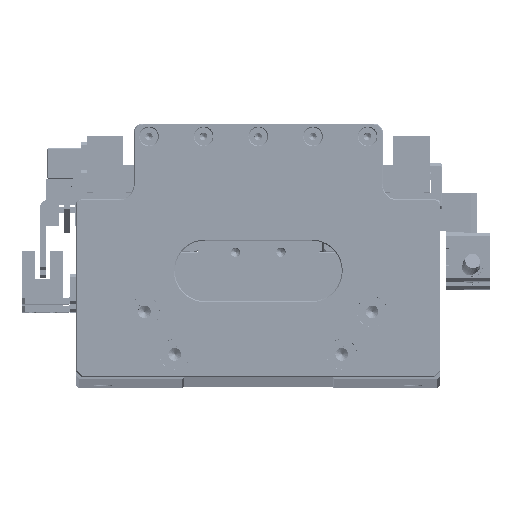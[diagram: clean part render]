
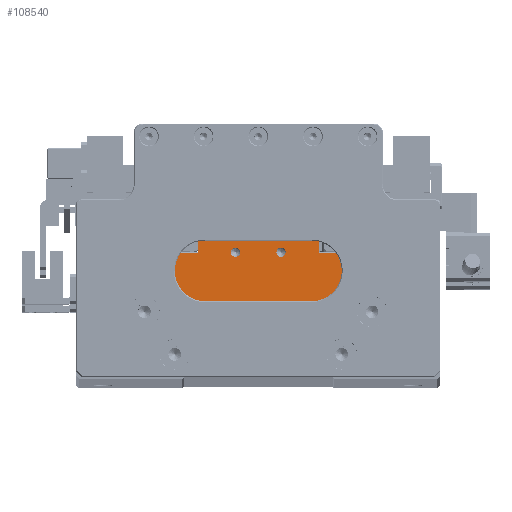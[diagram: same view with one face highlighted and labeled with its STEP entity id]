
A CAD part, top view. The second image highlights one B-rep face of the part: STEP entity #108540.
In plain terms, the highlighted planar face has unit normal (0, 0, 1).
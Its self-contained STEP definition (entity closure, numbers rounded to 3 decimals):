
#1311 = VERTEX_POINT ( 'NONE', #102017 ) ;
#1717 = AXIS2_PLACEMENT_3D ( 'NONE', #5320, #81528, #16213 ) ;
#4116 = VERTEX_POINT ( 'NONE', #40309 ) ;
#4227 = CARTESIAN_POINT ( 'NONE',  ( -9.194, 6.204, 411.036 ) ) ;
#4670 = DIRECTION ( 'NONE',  ( 0., -1., 0. ) ) ;
#5320 = CARTESIAN_POINT ( 'NONE',  ( -9.194, 6.304, 411.036 ) ) ;
#5510 = ORIENTED_EDGE ( 'NONE', *, *, #135679, .F. ) ;
#5614 = EDGE_CURVE ( 'NONE', #63781, #83445, #75489, .T. ) ;
#5928 = AXIS2_PLACEMENT_3D ( 'NONE', #18801, #95131, #29763 ) ;
#6506 = LINE ( 'NONE', #45525, #67844 ) ;
#7746 = LINE ( 'NONE', #4227, #29901 ) ;
#9224 = LINE ( 'NONE', #139743, #118358 ) ;
#10026 = DIRECTION ( 'NONE',  ( 0., 0., -1. ) ) ;
#12583 = CIRCLE ( 'NONE', #5928, 1.525 ) ;
#13276 = EDGE_CURVE ( 'NONE', #1311, #90318, #24236, .T. ) ;
#15146 = DIRECTION ( 'NONE',  ( 1., 0., 0. ) ) ;
#16213 = DIRECTION ( 'NONE',  ( 1., 0., 0. ) ) ;
#18296 = ORIENTED_EDGE ( 'NONE', *, *, #66097, .F. ) ;
#18801 = CARTESIAN_POINT ( 'NONE',  ( -9.194, 6.304, 411.036 ) ) ;
#20226 = CARTESIAN_POINT ( 'NONE',  ( 4.281, 6.304, 411.036 ) ) ;
#23239 = CIRCLE ( 'NONE', #1717, 1.525 ) ;
#24236 = LINE ( 'NONE', #32887, #78788 ) ;
#24288 = VECTOR ( 'NONE', #56623, 1000. ) ;
#25034 = EDGE_CURVE ( 'NONE', #4116, #130643, #140242, .T. ) ;
#28762 = EDGE_CURVE ( 'NONE', #46208, #33483, #127867, .T. ) ;
#29763 = DIRECTION ( 'NONE',  ( 1., 0., 0. ) ) ;
#29901 = VECTOR ( 'NONE', #15146, 1000. ) ;
#32887 = CARTESIAN_POINT ( 'NONE',  ( 18.306, -1.296, 411.036 ) ) ;
#33483 = VERTEX_POINT ( 'NONE', #78119 ) ;
#33678 = EDGE_LOOP ( 'NONE', ( #125991, #82528, #53401, #141321, #18296, #136109, #71785, #45824 ) ) ;
#34412 = FACE_BOUND ( 'NONE', #123426, .T. ) ;
#37057 = DIRECTION ( 'NONE',  ( 0., 1., 0. ) ) ;
#37298 = CARTESIAN_POINT ( 'NONE',  ( 28.206, -12.996, 411.036 ) ) ;
#39670 = VECTOR ( 'NONE', #4670, 1000. ) ;
#40309 = CARTESIAN_POINT ( 'NONE',  ( -31.594, -12.996, 411.036 ) ) ;
#41600 = DIRECTION ( 'NONE',  ( 1., 0., 0. ) ) ;
#45525 = CARTESIAN_POINT ( 'NONE',  ( -9.194, 10.204, 411.036 ) ) ;
#45696 = CARTESIAN_POINT ( 'NONE',  ( -31.594, -1.296, 411.036 ) ) ;
#45824 = ORIENTED_EDGE ( 'NONE', *, *, #101614, .F. ) ;
#46208 = VERTEX_POINT ( 'NONE', #20226 ) ;
#50228 = AXIS2_PLACEMENT_3D ( 'NONE', #75287, #10026, #86322 ) ;
#53401 = ORIENTED_EDGE ( 'NONE', *, *, #113163, .T. ) ;
#54450 = EDGE_CURVE ( 'NONE', #130643, #126558, #7746, .T. ) ;
#54823 = DIRECTION ( 'NONE',  ( 0., 0., 1. ) ) ;
#55263 = DIRECTION ( 'NONE',  ( 0., 0., 1. ) ) ;
#56520 = CARTESIAN_POINT ( 'NONE',  ( -10.719, 6.304, 411.036 ) ) ;
#56623 = DIRECTION ( 'NONE',  ( 0., 1., 0. ) ) ;
#57300 = VERTEX_POINT ( 'NONE', #77369 ) ;
#57857 = LINE ( 'NONE', #91436, #114401 ) ;
#63781 = VERTEX_POINT ( 'NONE', #101064 ) ;
#66097 = EDGE_CURVE ( 'NONE', #90318, #63781, #9224, .T. ) ;
#67844 = VECTOR ( 'NONE', #121736, 1000. ) ;
#71785 = ORIENTED_EDGE ( 'NONE', *, *, #103635, .F. ) ;
#72375 = CIRCLE ( 'NONE', #106348, 1.525 ) ;
#75287 = CARTESIAN_POINT ( 'NONE',  ( -9.194, -1.296, 411.036 ) ) ;
#75489 = LINE ( 'NONE', #135172, #39670 ) ;
#77369 = CARTESIAN_POINT ( 'NONE',  ( -21.694, 10.204, 411.036 ) ) ;
#77830 = ORIENTED_EDGE ( 'NONE', *, *, #28762, .F. ) ;
#78119 = CARTESIAN_POINT ( 'NONE',  ( 7.331, 6.304, 411.036 ) ) ;
#78788 = VECTOR ( 'NONE', #109176, 1000. ) ;
#79339 = EDGE_CURVE ( 'NONE', #140854, #134369, #23239, .T. ) ;
#81528 = DIRECTION ( 'NONE',  ( 0., 0., 1. ) ) ;
#82528 = ORIENTED_EDGE ( 'NONE', *, *, #25034, .F. ) ;
#83445 = VERTEX_POINT ( 'NONE', #37298 ) ;
#84424 = ORIENTED_EDGE ( 'NONE', *, *, #136035, .F. ) ;
#85368 = EDGE_LOOP ( 'NONE', ( #111758, #84424 ) ) ;
#86322 = DIRECTION ( 'NONE',  ( -1., 0., 0. ) ) ;
#87130 = AXIS2_PLACEMENT_3D ( 'NONE', #120548, #55263, #131518 ) ;
#90318 = VERTEX_POINT ( 'NONE', #139913 ) ;
#91436 = CARTESIAN_POINT ( 'NONE',  ( -21.694, -1.296, 411.036 ) ) ;
#92457 = FACE_BOUND ( 'NONE', #85368, .T. ) ;
#94842 = VECTOR ( 'NONE', #100550, 1000. ) ;
#95131 = DIRECTION ( 'NONE',  ( 0., 0., 1. ) ) ;
#100550 = DIRECTION ( 'NONE',  ( 1., 0., 0. ) ) ;
#101064 = CARTESIAN_POINT ( 'NONE',  ( 28.206, 6.204, 411.036 ) ) ;
#101614 = EDGE_CURVE ( 'NONE', #126558, #57300, #57857, .T. ) ;
#102017 = CARTESIAN_POINT ( 'NONE',  ( 18.306, 10.204, 411.036 ) ) ;
#103635 = EDGE_CURVE ( 'NONE', #57300, #1311, #6506, .T. ) ;
#106348 = AXIS2_PLACEMENT_3D ( 'NONE', #120104, #54823, #131062 ) ;
#107747 = PLANE ( 'NONE',  #50228 ) ;
#108540 = ADVANCED_FACE ( 'NONE', ( #117998, #34412, #92457 ), #107747, .F. ) ;
#109176 = DIRECTION ( 'NONE',  ( 0., -1., 0. ) ) ;
#111758 = ORIENTED_EDGE ( 'NONE', *, *, #79339, .F. ) ;
#113163 = EDGE_CURVE ( 'NONE', #4116, #83445, #123754, .T. ) ;
#114401 = VECTOR ( 'NONE', #37057, 1000. ) ;
#116571 = CARTESIAN_POINT ( 'NONE',  ( -21.694, 6.204, 411.036 ) ) ;
#117998 = FACE_OUTER_BOUND ( 'NONE', #33678, .T. ) ;
#118358 = VECTOR ( 'NONE', #41600, 1000. ) ;
#120104 = CARTESIAN_POINT ( 'NONE',  ( 5.806, 6.304, 411.036 ) ) ;
#120548 = CARTESIAN_POINT ( 'NONE',  ( 5.806, 6.304, 411.036 ) ) ;
#121436 = CARTESIAN_POINT ( 'NONE',  ( -9.194, -12.996, 411.036 ) ) ;
#121736 = DIRECTION ( 'NONE',  ( 1., 0., 0. ) ) ;
#123426 = EDGE_LOOP ( 'NONE', ( #5510, #77830 ) ) ;
#123754 = LINE ( 'NONE', #121436, #94842 ) ;
#125991 = ORIENTED_EDGE ( 'NONE', *, *, #54450, .F. ) ;
#126558 = VERTEX_POINT ( 'NONE', #116571 ) ;
#127867 = CIRCLE ( 'NONE', #87130, 1.525 ) ;
#128738 = CARTESIAN_POINT ( 'NONE',  ( -31.594, 6.204, 411.036 ) ) ;
#129851 = CARTESIAN_POINT ( 'NONE',  ( -7.669, 6.304, 411.036 ) ) ;
#130643 = VERTEX_POINT ( 'NONE', #128738 ) ;
#131062 = DIRECTION ( 'NONE',  ( 1., 0., 0. ) ) ;
#131518 = DIRECTION ( 'NONE',  ( 1., 0., 0. ) ) ;
#134369 = VERTEX_POINT ( 'NONE', #56520 ) ;
#135172 = CARTESIAN_POINT ( 'NONE',  ( 28.206, -1.296, 411.036 ) ) ;
#135679 = EDGE_CURVE ( 'NONE', #33483, #46208, #72375, .T. ) ;
#136035 = EDGE_CURVE ( 'NONE', #134369, #140854, #12583, .T. ) ;
#136109 = ORIENTED_EDGE ( 'NONE', *, *, #13276, .F. ) ;
#139743 = CARTESIAN_POINT ( 'NONE',  ( -9.194, 6.204, 411.036 ) ) ;
#139913 = CARTESIAN_POINT ( 'NONE',  ( 18.306, 6.204, 411.036 ) ) ;
#140242 = LINE ( 'NONE', #45696, #24288 ) ;
#140854 = VERTEX_POINT ( 'NONE', #129851 ) ;
#141321 = ORIENTED_EDGE ( 'NONE', *, *, #5614, .F. ) ;
